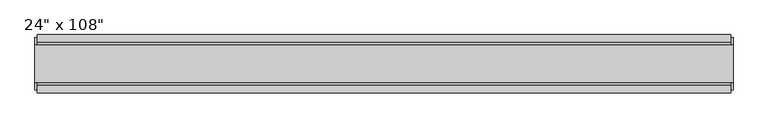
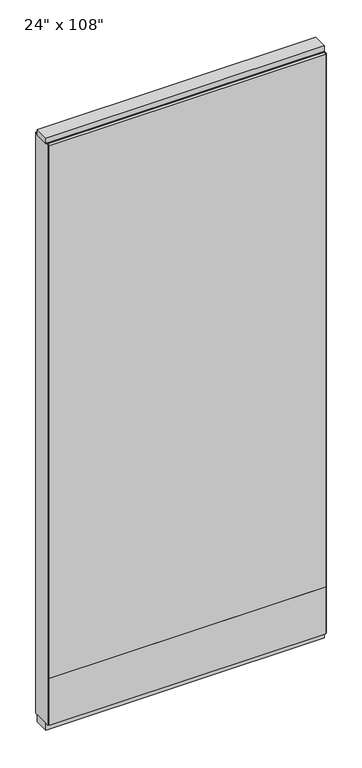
"""IFC4 building model written with IfcOpenShell, lengths in millimetres: furniture geometry."""

from ifc_helpers import new_model, si_unit, frame, origin, origin_with_axes, place, context, project, spatial, polyline, outline, extrude, source, transform, mapped, element, save


def furniture_cf509416(model_context):
    return source(origin(), model_context, "Body", "SweptSolid", [
        extrude(outline(polyline([(545.6264771, 46.2822784), (545.6264771, 33.5822784), (-665.6995229, 33.5822784), (-665.6995229, 46.2822784), (545.6264771, 46.2822784)])), frame((0.0, 0.0, 249.936), z_axis=(0.0, 0.0, 1.0), x_axis=(1.0, 0.0, 0.0)), (0.0, 0.0, 1.0), 2467.864),
        extrude(outline(polyline([(545.6264771, -55.3177216), (-665.6995229, -55.3177216), (-665.6995229, -42.6177216), (545.6264771, -42.6177216), (545.6264771, -55.3177216)])), frame((0.0, 0.0, 249.936), z_axis=(0.0, 0.0, 1.0), x_axis=(1.0, 0.0, 0.0)), (0.0, 0.0, 1.0), 2467.864),
        extrude(outline(polyline([(545.6264771, 46.2822784), (545.6264771, 33.5822784), (-665.6995229, 33.5822784), (-665.6995229, 46.2822784), (545.6264771, 46.2822784)])), frame((0.0, 0.0, 31.75), z_axis=(0.0, 0.0, 1.0), x_axis=(1.0, 0.0, 0.0)), (0.0, 0.0, 1.0), 218.186),
        extrude(outline(polyline([(545.6264771, -55.3177216), (-665.6995229, -55.3177216), (-665.6995229, -42.6177216), (545.6264771, -42.6177216), (545.6264771, -55.3177216)])), frame((0.0, 0.0, 31.75), z_axis=(0.0, 0.0, 1.0), x_axis=(1.0, 0.0, 0.0)), (0.0, 0.0, 1.0), 218.186),
        extrude(outline(polyline([(-42.6177216, 2681.478), (-42.6177216, 2717.8), (33.5822784, 2717.8), (33.5822784, 2681.478), (28.6292784, 2681.478), (28.6292784, 2676.525), (-37.6647216, 2676.525), (-37.6647216, 2681.478), (-42.6177216, 2681.478)])), frame((-665.6995229, 0.0, 0.0), z_axis=(1.0, 0.0, 0.0), x_axis=(0.0, 1.0, 0.0)), (0.0, 0.0, 1.0), 1211.326),
        extrude(outline(polyline([(549.5634771, 27.9942784), (549.5634771, -37.0297216), (-669.6365229, -37.0297216), (-669.6365229, 27.9942784), (549.5634771, 27.9942784)])), origin_with_axes(), (0.0, 0.0, 1.0), 31.75),
        extrude(outline(polyline([(-669.6365229, -37.0297216), (-669.6365229, 27.9942784), (549.5634771, 27.9942784), (549.5634771, -37.0297216), (-669.6365229, -37.0297216)])), frame((0.0, 0.0, 2717.8), z_axis=(0.0, 0.0, 1.0), x_axis=(1.0, 0.0, 0.0)), (0.0, 0.0, 1.0), 25.4),
        extrude(outline(polyline([(549.5634771, -50.3647216), (545.6264771, -50.3647216), (545.6264771, 41.3292784), (549.5634771, 41.3292784), (549.5634771, -50.3647216)])), frame((0.0, 0.0, 31.75), z_axis=(0.0, 0.0, 1.0), x_axis=(1.0, 0.0, 0.0)), (0.0, 0.0, 1.0), 2686.05),
        extrude(outline(polyline([(-669.6365229, -50.3647216), (-669.6365229, 41.3292784), (-665.6995229, 41.3292784), (-665.6995229, -50.3647216), (-669.6365229, -50.3647216)])), frame((0.0, 0.0, 31.75), z_axis=(0.0, 0.0, 1.0), x_axis=(1.0, 0.0, 0.0)), (0.0, 0.0, 1.0), 2686.05),
    ])


if __name__ == "__main__":
    model = new_model("IFC4")
    model_context = context("Model", 3, world=origin())
    ifc_project = project(units=[si_unit("LENGTHUNIT", "METRE", prefix="MILLI")], contexts=[model_context])
    site = spatial("IfcSite", under=ifc_project)
    building = spatial("IfcBuilding", under=site)
    placement = place(None, origin())
    furniture_shape = furniture_cf509416(model_context)
    element("IfcFurniture", 1, ObjectType="Haworth_Enclose-Wall-Solid : 24\" x 108\"", at=placement, inside=building, context=model_context, shape_type="MappedRepresentation", body=[
        mapped(furniture_shape, transform((0.0, 0.0, 0.0), x_axis=(1.0, 0.0, 0.0), y_axis=(0.0, 1.0, 0.0), z_axis=(0.0, 0.0, 1.0))),
    ])
    save(model, "model.ifc")
